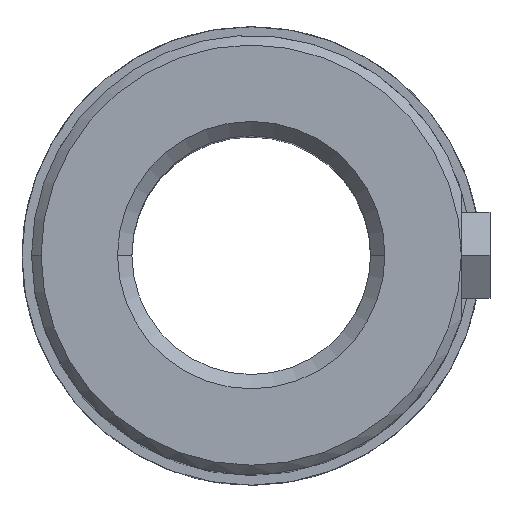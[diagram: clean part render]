
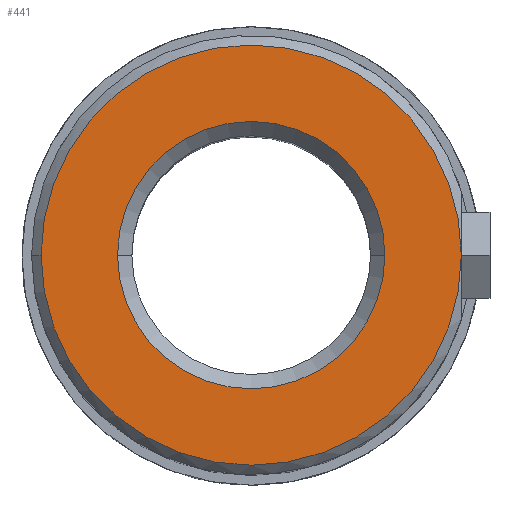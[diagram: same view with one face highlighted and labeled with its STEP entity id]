
A CAD part, top view. The second image highlights one B-rep face of the part: STEP entity #441.
In plain terms, the highlighted planar face has unit normal (0, 0, 1).
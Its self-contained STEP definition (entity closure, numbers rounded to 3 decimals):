
#323=CARTESIAN_POINT('Axis2P3D Location',(0.,0.,56.)) ;
#327=CARTESIAN_POINT('Vertex',(14.,0.,56.)) ;
#329=CARTESIAN_POINT('Vertex',(-14.,0.,56.)) ;
#385=CARTESIAN_POINT('Axis2P3D Location',(0.,0.,56.)) ;
#414=CARTESIAN_POINT('Axis2P3D Location',(14.,0.,56.)) ;
#419=CARTESIAN_POINT('Axis2P3D Location',(0.,0.,56.)) ;
#423=CARTESIAN_POINT('Vertex',(22.,0.,56.)) ;
#425=CARTESIAN_POINT('Vertex',(-22.,0.,56.)) ;
#428=CARTESIAN_POINT('Axis2P3D Location',(0.,0.,56.)) ;
#324=DIRECTION('Axis2P3D Direction',(0.,-0.,1.)) ;
#386=DIRECTION('Axis2P3D Direction',(0.,-0.,1.)) ;
#415=DIRECTION('Axis2P3D Direction',(0.,-0.,1.)) ;
#416=DIRECTION('Axis2P3D XDirection',(1.,0.,0.)) ;
#420=DIRECTION('Axis2P3D Direction',(0.,-0.,1.)) ;
#429=DIRECTION('Axis2P3D Direction',(0.,-0.,1.)) ;
#325=AXIS2_PLACEMENT_3D('Circle Axis2P3D',#323,#324,$) ;
#387=AXIS2_PLACEMENT_3D('Circle Axis2P3D',#385,#386,$) ;
#417=AXIS2_PLACEMENT_3D('Plane Axis2P3D',#414,#415,#416) ;
#421=AXIS2_PLACEMENT_3D('Circle Axis2P3D',#419,#420,$) ;
#430=AXIS2_PLACEMENT_3D('Circle Axis2P3D',#428,#429,$) ;
#434=ORIENTED_EDGE('',*,*,#427,.T.) ;
#435=ORIENTED_EDGE('',*,*,#432,.T.) ;
#438=ORIENTED_EDGE('',*,*,#389,.F.) ;
#439=ORIENTED_EDGE('',*,*,#331,.F.) ;
#440=FACE_BOUND('',#437,.T.) ;
#441=ADVANCED_FACE('742-25',(#436,#440),#418,.T.) ;
#326=CIRCLE('generated circle',#325,14.) ;
#388=CIRCLE('generated circle',#387,14.) ;
#422=CIRCLE('generated circle',#421,22.) ;
#431=CIRCLE('generated circle',#430,22.) ;
#331=EDGE_CURVE('',#328,#330,#326,.T.) ;
#389=EDGE_CURVE('',#330,#328,#388,.T.) ;
#427=EDGE_CURVE('',#424,#426,#422,.T.) ;
#432=EDGE_CURVE('',#426,#424,#431,.T.) ;
#433=EDGE_LOOP('',(#434,#435)) ;
#437=EDGE_LOOP('',(#438,#439)) ;
#436=FACE_OUTER_BOUND('',#433,.T.) ;
#418=PLANE('Plane',#417) ;
#328=VERTEX_POINT('',#327) ;
#330=VERTEX_POINT('',#329) ;
#424=VERTEX_POINT('',#423) ;
#426=VERTEX_POINT('',#425) ;
